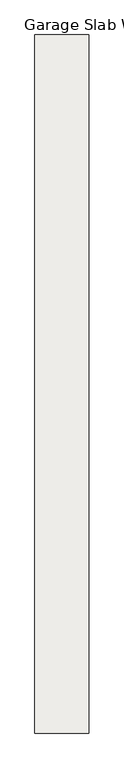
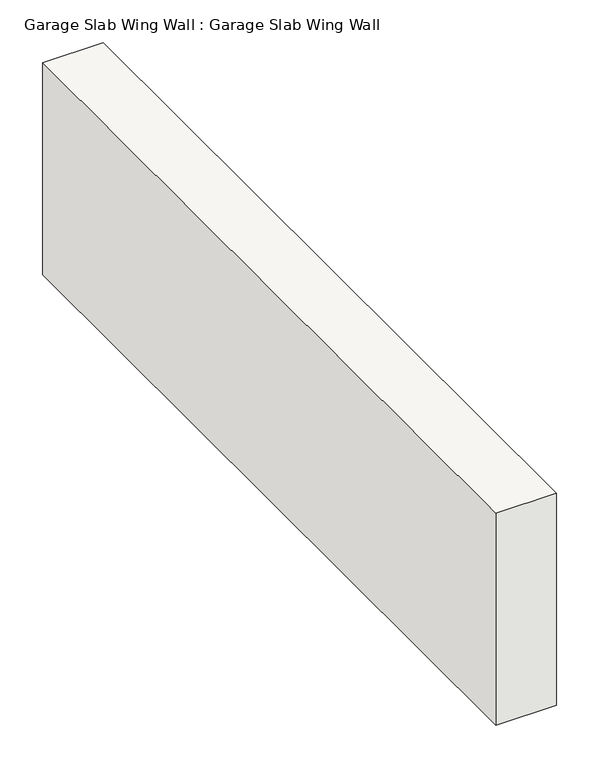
"""IFC4 building model written with IfcOpenShell, lengths in millimetres: slab geometry, Garage Slab Wing Wall : Garage Slab Wing Wall."""

from ifc_helpers import new_model, si_unit, frame, origin, place, context, project, spatial, polyline, outline, extrude, source, transform, mapped, element, save


def garage_slab_wing_wall_garage_slab_wing_wall_024261c0(model_context):
    return source(origin(), model_context, "Body", "SweptSolid", [
        extrude(outline(polyline([(-15164.7178637, 10358.9349287), (-15247.2678637, 10358.9349287), (-15247.2678637, 11425.7349287), (-15164.7178637, 11425.7349287), (-15164.7178637, 10358.9349287)])), frame((0.0, 0.0, -304.8), z_axis=(0.0, 0.0, 1.0), x_axis=(1.0, 0.0, 0.0)), (0.0, 0.0, 1.0), 304.8),
    ])


if __name__ == "__main__":
    model = new_model("IFC4")
    model_context = context("Model", 3, world=origin())
    ifc_project = project(units=[si_unit("LENGTHUNIT", "METRE", prefix="MILLI")], contexts=[model_context])
    site = spatial("IfcSite", under=ifc_project)
    building = spatial("IfcBuilding", under=site)
    placement = place(None, origin())
    garage_slab_wing_wall_garage_slab_wing_wall_shape = garage_slab_wing_wall_garage_slab_wing_wall_024261c0(model_context)
    element("IfcSlab", 1, ObjectType="Garage Slab Wing Wall : Garage Slab Wing Wall", at=placement, inside=building, context=model_context, shape_type="MappedRepresentation", body=[
        mapped(garage_slab_wing_wall_garage_slab_wing_wall_shape, transform((0.0, 0.0, 0.0), x_axis=(1.0, 0.0, 0.0), y_axis=(0.0, 1.0, 0.0), z_axis=(0.0, 0.0, 1.0))),
    ])
    save(model, "model.ifc")
